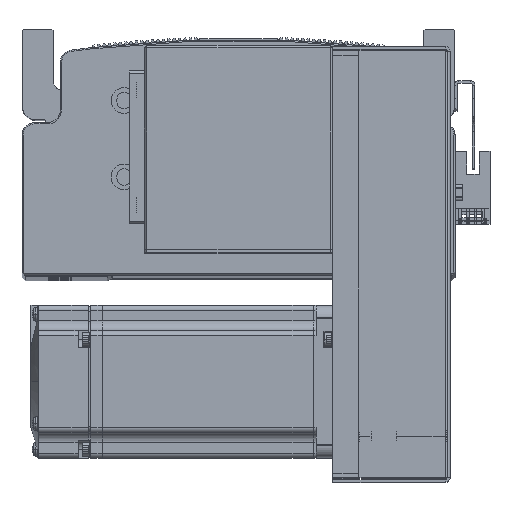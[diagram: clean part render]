
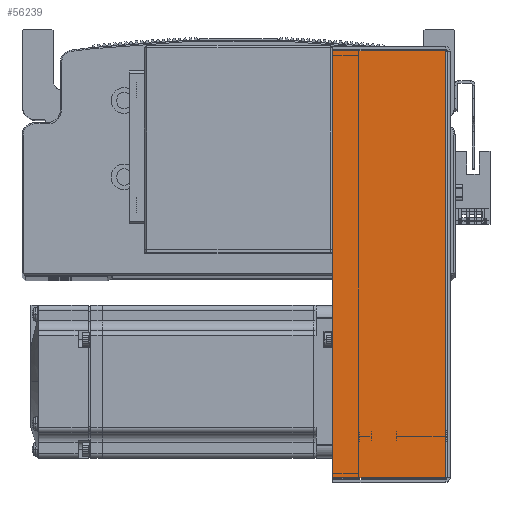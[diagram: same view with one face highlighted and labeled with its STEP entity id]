
A CAD part, top view. The second image highlights one B-rep face of the part: STEP entity #56239.
In plain terms, the highlighted planar face has unit normal (0, 0, 1) as drawn and (0, 0, -1) by its records, which use the part's own axes.
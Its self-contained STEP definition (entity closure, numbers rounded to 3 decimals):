
#4384 = FACE_OUTER_BOUND ( 'NONE', #20366, .T. ) ;
#6851 = EDGE_CURVE ( 'NONE', #47638, #47695, #34155, .T. ) ;
#6873 = EDGE_CURVE ( 'NONE', #47695, #47705, #34195, .T. ) ;
#6903 = EDGE_CURVE ( 'NONE', #47638, #47704, #34186, .T. ) ;
#6934 = EDGE_CURVE ( 'NONE', #47704, #47705, #34284, .T. ) ;
#10026 = CARTESIAN_POINT ( 'NONE',  ( -83.793, 0.737, -40.5 ) ) ;
#10073 = CARTESIAN_POINT ( 'NONE',  ( -83.793, 45., -40.5 ) ) ;
#10116 = CARTESIAN_POINT ( 'NONE',  ( 83.793, 0.737, -40.5 ) ) ;
#10143 = CARTESIAN_POINT ( 'NONE',  ( 83.793, 45., -40.5 ) ) ;
#17316 = AXIS2_PLACEMENT_3D ( 'NONE', #60040, #60106, #60150 ) ;
#20366 = EDGE_LOOP ( 'NONE', ( #75726, #75732, #75783, #75771 ) ) ;
#34151 = VECTOR ( 'NONE', #83304, 1000. ) ;
#34155 = LINE ( 'NONE', #83132, #34201 ) ;
#34186 = LINE ( 'NONE', #83378, #34191 ) ;
#34191 = VECTOR ( 'NONE', #83326, 1000. ) ;
#34195 = LINE ( 'NONE', #83307, #34151 ) ;
#34201 = VECTOR ( 'NONE', #83156, 1000. ) ;
#34284 = LINE ( 'NONE', #83442, #34329 ) ;
#34329 = VECTOR ( 'NONE', #83410, 1000. ) ;
#47638 = VERTEX_POINT ( 'NONE', #10026 ) ;
#47695 = VERTEX_POINT ( 'NONE', #10116 ) ;
#47704 = VERTEX_POINT ( 'NONE', #10073 ) ;
#47705 = VERTEX_POINT ( 'NONE', #10143 ) ;
#56239 = ADVANCED_FACE ( 'NONE', ( #4384 ), #60039, .F. ) ;
#60039 = PLANE ( 'NONE',  #17316 ) ;
#60040 = CARTESIAN_POINT ( 'NONE',  ( 0., 0., -40.5 ) ) ;
#60106 = DIRECTION ( 'NONE',  ( 0., 0., 1. ) ) ;
#60150 = DIRECTION ( 'NONE',  ( 0., -1., 0. ) ) ;
#75726 = ORIENTED_EDGE ( 'NONE', *, *, #6851, .F. ) ;
#75732 = ORIENTED_EDGE ( 'NONE', *, *, #6903, .T. ) ;
#75771 = ORIENTED_EDGE ( 'NONE', *, *, #6873, .F. ) ;
#75783 = ORIENTED_EDGE ( 'NONE', *, *, #6934, .T. ) ;
#83132 = CARTESIAN_POINT ( 'NONE',  ( 0., 0.737, -40.5 ) ) ;
#83156 = DIRECTION ( 'NONE',  ( 1., 0., 0. ) ) ;
#83304 = DIRECTION ( 'NONE',  ( 0., 1., 0. ) ) ;
#83307 = CARTESIAN_POINT ( 'NONE',  ( 83.793, 0., -40.5 ) ) ;
#83326 = DIRECTION ( 'NONE',  ( 0., 1., 0. ) ) ;
#83378 = CARTESIAN_POINT ( 'NONE',  ( -83.793, 0., -40.5 ) ) ;
#83410 = DIRECTION ( 'NONE',  ( 1., 0., 0. ) ) ;
#83442 = CARTESIAN_POINT ( 'NONE',  ( 84.5, 45., -40.5 ) ) ;
